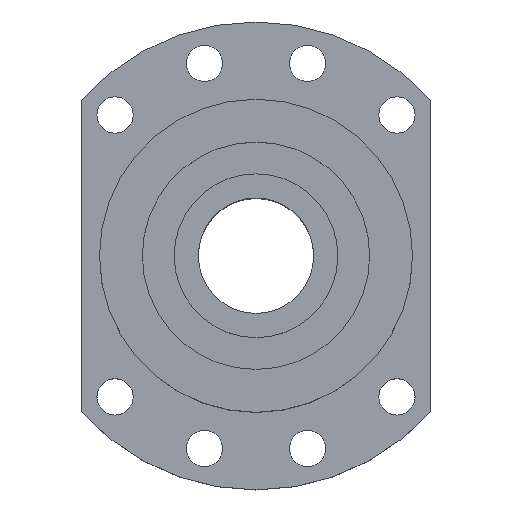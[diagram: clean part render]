
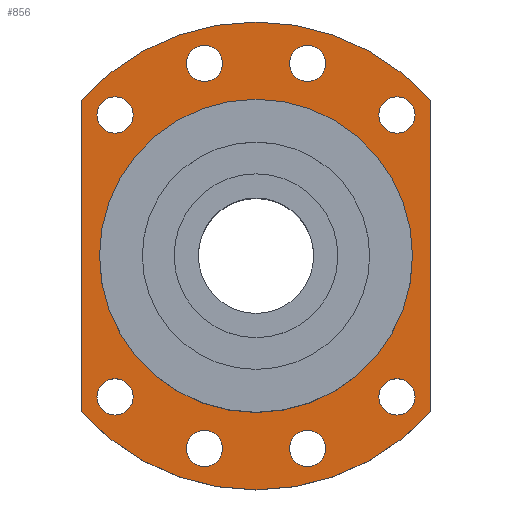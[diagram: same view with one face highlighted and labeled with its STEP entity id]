
A CAD part, top view. The second image highlights one B-rep face of the part: STEP entity #856.
In plain terms, the highlighted planar face has unit normal (0, 0, 1).
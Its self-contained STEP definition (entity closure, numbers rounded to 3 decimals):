
#74=LINE($,#1487,#106);
#75=LINE($,#1490,#107);
#106=VECTOR($,#1249,94.488);
#107=VECTOR($,#1252,94.488);
#165=FACE_BOUND($,#331,.T.);
#166=FACE_BOUND($,#332,.T.);
#167=FACE_BOUND($,#333,.T.);
#168=FACE_BOUND($,#334,.T.);
#169=FACE_BOUND($,#335,.T.);
#170=FACE_BOUND($,#336,.T.);
#171=FACE_BOUND($,#337,.T.);
#172=FACE_BOUND($,#338,.T.);
#173=FACE_BOUND($,#339,.T.);
#174=FACE_BOUND($,#340,.T.);
#331=EDGE_LOOP($,(#760));
#332=EDGE_LOOP($,(#761));
#333=EDGE_LOOP($,(#762));
#334=EDGE_LOOP($,(#763));
#335=EDGE_LOOP($,(#764));
#336=EDGE_LOOP($,(#765));
#337=EDGE_LOOP($,(#766));
#338=EDGE_LOOP($,(#767));
#339=EDGE_LOOP($,(#768));
#340=EDGE_LOOP($,(#769,#770,#771,#772));
#369=CIRCLE($,#916,5.5);
#373=CIRCLE($,#923,5.5);
#377=CIRCLE($,#930,5.5);
#381=CIRCLE($,#937,5.5);
#385=CIRCLE($,#944,5.5);
#389=CIRCLE($,#951,5.5);
#393=CIRCLE($,#958,5.5);
#397=CIRCLE($,#965,5.5);
#399=CIRCLE($,#968,47.5);
#403=CIRCLE($,#976,71.);
#404=CIRCLE($,#980,71.);
#445=VERTEX_POINT($,#1381);
#449=VERTEX_POINT($,#1392);
#453=VERTEX_POINT($,#1403);
#457=VERTEX_POINT($,#1414);
#461=VERTEX_POINT($,#1425);
#465=VERTEX_POINT($,#1436);
#469=VERTEX_POINT($,#1447);
#473=VERTEX_POINT($,#1458);
#475=VERTEX_POINT($,#1463);
#481=VERTEX_POINT($,#1479);
#482=VERTEX_POINT($,#1481);
#483=VERTEX_POINT($,#1485);
#484=VERTEX_POINT($,#1489);
#537=EDGE_CURVE($,#445,#445,#369,.T.);
#541=EDGE_CURVE($,#449,#449,#373,.T.);
#545=EDGE_CURVE($,#453,#453,#377,.T.);
#549=EDGE_CURVE($,#457,#457,#381,.T.);
#553=EDGE_CURVE($,#461,#461,#385,.T.);
#557=EDGE_CURVE($,#465,#465,#389,.T.);
#561=EDGE_CURVE($,#469,#469,#393,.T.);
#565=EDGE_CURVE($,#473,#473,#397,.T.);
#567=EDGE_CURVE($,#475,#475,#399,.T.);
#574=EDGE_CURVE($,#482,#481,#403,.T.);
#577=EDGE_CURVE($,#481,#483,#74,.T.);
#578=EDGE_CURVE($,#484,#482,#75,.T.);
#580=EDGE_CURVE($,#483,#484,#404,.T.);
#760=ORIENTED_EDGE($,*,*,#537,.T.);
#761=ORIENTED_EDGE($,*,*,#541,.T.);
#762=ORIENTED_EDGE($,*,*,#545,.T.);
#763=ORIENTED_EDGE($,*,*,#549,.T.);
#764=ORIENTED_EDGE($,*,*,#553,.T.);
#765=ORIENTED_EDGE($,*,*,#557,.T.);
#766=ORIENTED_EDGE($,*,*,#561,.T.);
#767=ORIENTED_EDGE($,*,*,#565,.T.);
#768=ORIENTED_EDGE($,*,*,#567,.T.);
#769=ORIENTED_EDGE($,*,*,#577,.T.);
#770=ORIENTED_EDGE($,*,*,#580,.T.);
#771=ORIENTED_EDGE($,*,*,#578,.T.);
#772=ORIENTED_EDGE($,*,*,#574,.T.);
#798=PLANE($,#981);
#856=ADVANCED_FACE($,(#165,#166,#167,#168,#169,#170,#171,#172,#173,#174),
#798,.T.);
#916=AXIS2_PLACEMENT_3D($,#1382,#1120,#1121);
#923=AXIS2_PLACEMENT_3D($,#1393,#1134,#1135);
#930=AXIS2_PLACEMENT_3D($,#1404,#1148,#1149);
#937=AXIS2_PLACEMENT_3D($,#1415,#1162,#1163);
#944=AXIS2_PLACEMENT_3D($,#1426,#1176,#1177);
#951=AXIS2_PLACEMENT_3D($,#1437,#1190,#1191);
#958=AXIS2_PLACEMENT_3D($,#1448,#1204,#1205);
#965=AXIS2_PLACEMENT_3D($,#1459,#1218,#1219);
#968=AXIS2_PLACEMENT_3D($,#1464,#1224,#1225);
#976=AXIS2_PLACEMENT_3D($,#1482,#1243,#1244);
#980=AXIS2_PLACEMENT_3D($,#1493,#1256,#1257);
#981=AXIS2_PLACEMENT_3D($,#1494,#1258,#1259);
#1120=DIRECTION('center_axis',(0.,0.,-1.));
#1121=DIRECTION('ref_axis',(-1.,0.,0.));
#1134=DIRECTION('center_axis',(0.,0.,-1.));
#1135=DIRECTION('ref_axis',(-1.,0.,0.));
#1148=DIRECTION('center_axis',(0.,0.,-1.));
#1149=DIRECTION('ref_axis',(-1.,0.,0.));
#1162=DIRECTION('center_axis',(0.,0.,-1.));
#1163=DIRECTION('ref_axis',(-1.,0.,0.));
#1176=DIRECTION('center_axis',(0.,0.,-1.));
#1177=DIRECTION('ref_axis',(-1.,0.,0.));
#1190=DIRECTION('center_axis',(0.,0.,-1.));
#1191=DIRECTION('ref_axis',(-1.,0.,0.));
#1204=DIRECTION('center_axis',(0.,0.,-1.));
#1205=DIRECTION('ref_axis',(-1.,0.,0.));
#1218=DIRECTION('center_axis',(0.,0.,-1.));
#1219=DIRECTION('ref_axis',(-1.,0.,0.));
#1224=DIRECTION('center_axis',(0.,0.,-1.));
#1225=DIRECTION('ref_axis',(-1.,0.,0.));
#1243=DIRECTION('center_axis',(0.,0.,1.));
#1244=DIRECTION('ref_axis',(0.746,0.665,0.));
#1249=DIRECTION($,(0.,-1.,0.));
#1252=DIRECTION($,(0.,1.,0.));
#1256=DIRECTION('center_axis',(0.,0.,1.));
#1257=DIRECTION('ref_axis',(-0.746,-0.665,0.));
#1258=DIRECTION('center_axis',(0.,0.,1.));
#1259=DIRECTION('ref_axis',(1.,0.,0.));
#1381=CARTESIAN_POINT('',(48.28,-42.78,19.));
#1382=CARTESIAN_POINT('Origin',(42.78,-42.78,19.));
#1392=CARTESIAN_POINT('',(-37.28,42.78,19.));
#1393=CARTESIAN_POINT('Origin',(-42.78,42.78,19.));
#1403=CARTESIAN_POINT('',(21.159,-58.439,19.));
#1404=CARTESIAN_POINT('Origin',(15.659,-58.439,19.));
#1414=CARTESIAN_POINT('',(21.159,58.439,19.));
#1415=CARTESIAN_POINT('Origin',(15.659,58.439,19.));
#1425=CARTESIAN_POINT('',(-10.159,58.439,19.));
#1426=CARTESIAN_POINT('Origin',(-15.659,58.439,19.));
#1436=CARTESIAN_POINT('',(-10.159,-58.439,19.));
#1437=CARTESIAN_POINT('Origin',(-15.659,-58.439,19.));
#1447=CARTESIAN_POINT('',(48.28,42.78,19.));
#1448=CARTESIAN_POINT('Origin',(42.78,42.78,19.));
#1458=CARTESIAN_POINT('',(-37.28,-42.78,19.));
#1459=CARTESIAN_POINT('Origin',(-42.78,-42.78,19.));
#1463=CARTESIAN_POINT('',(47.5,0.,19.));
#1464=CARTESIAN_POINT('Origin',(0.,0.,19.));
#1479=CARTESIAN_POINT('',(-53.,47.244,19.));
#1481=CARTESIAN_POINT('',(53.,47.244,19.));
#1482=CARTESIAN_POINT('Origin',(0.,0.,19.));
#1485=CARTESIAN_POINT('',(-53.,-47.244,19.));
#1487=CARTESIAN_POINT($,(-53.,47.244,19.));
#1489=CARTESIAN_POINT('',(53.,-47.244,19.));
#1490=CARTESIAN_POINT($,(53.,-47.244,19.));
#1493=CARTESIAN_POINT('Origin',(0.,0.,19.));
#1494=CARTESIAN_POINT('Origin',(0.,0.,
19.));
